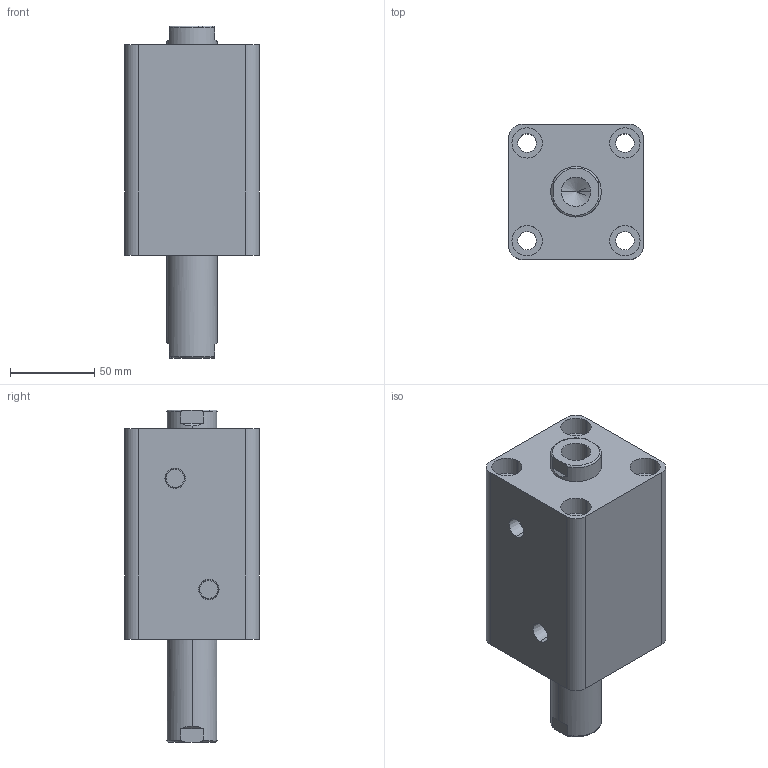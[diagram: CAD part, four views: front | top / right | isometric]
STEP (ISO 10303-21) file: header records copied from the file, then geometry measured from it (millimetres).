
FILE_DESCRIPTION (( 'STEP AP203' ), '1' );
FILE_NAME ('HTB-SW50-50N.STEP', '2019-10-07T09:20:53', ( '微软用户' ), ( '微软中国' ), 'SwSTEP 2.0', 'SolidWorks 2012', '' );
FILE_SCHEMA (( 'CONFIG_CONTROL_DESIGN' ));
Length unit declared in the file: millimetre
Products named in the file (3): HTB-SW50-50N; HTB-SW50-50N活塞杆; HTB-SW50-50掛极
Assembly tree (2 placements, depth 2):
  HTB-SW50-50N
    HTB-SW50-50掛极
    HTB-SW50-50N活塞杆
Bounding box: 80 x 80 x 197 mm (x, y, z)
Volume: 704268.5 mm3; surface area: 113978.5 mm2
Topology: 2 solids, 2 shells, 100 faces, 228 edges, 146 vertices
Faces by surface type: cylinder 48, plane 32, torus 12, cone 8
Entity records: 3237 total; most frequent: CARTESIAN_POINT 595, DIRECTION 542, ORIENTED_EDGE 448, AXIS2_PLACEMENT_3D 229, EDGE_CURVE 224, VERTEX_POINT 146, EDGE_LOOP 128, CIRCLE 124
